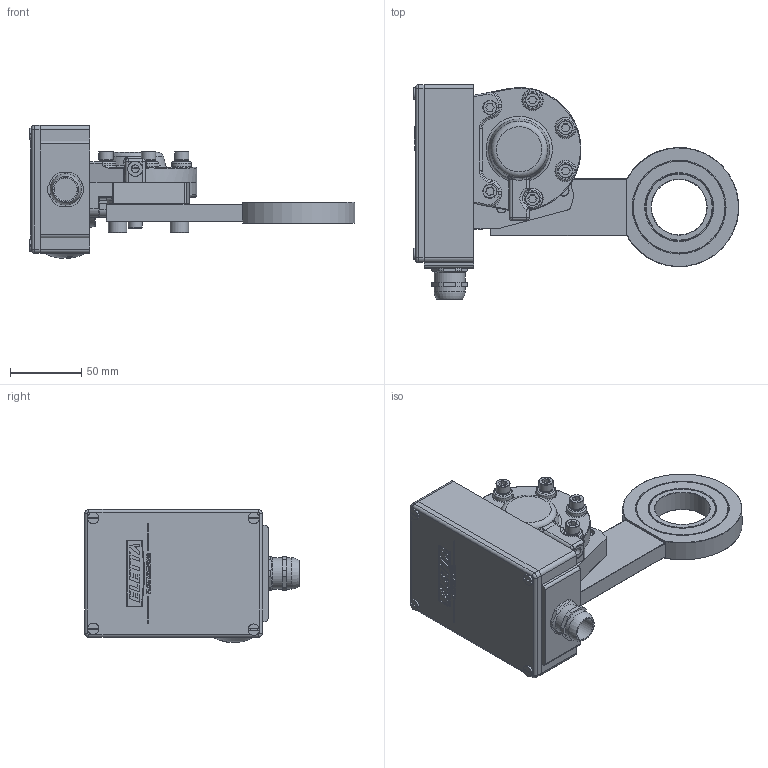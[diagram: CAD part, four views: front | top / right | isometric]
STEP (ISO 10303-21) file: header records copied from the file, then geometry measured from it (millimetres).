
FILE_DESCRIPTION(/* description */ ('Alibre Inc.'),/* implementation_level */ '2;1');
FILE_NAME(/* name */ 'export0',/* time_stamp */ '2012-10-19T13:16:03+02:00',/* author */ (''),/* organization */ (''),/* preprocessor_version */ 'ST-DEVELOPER v14',/* originating_system */ 'Alibre',/* authorisation */ '');
FILE_SCHEMA (('CONFIG_CONTROL_DESIGN'));
Length unit declared in the file: centimetre
Products named in the file (12): ID_1; ID_2; ID_3; ID_4; ID_5; ID_6; ID_7; ID_8; ID_9
Bounding box: 228.86 x 151 x 93.66 mm (x, y, z)
Volume: 375392.6 mm3; surface area: 166464.9 mm2
Topology: 21 solids, 21 shells, 1085 faces, 2568 edges, 1593 vertices
Faces by surface type: plane 538, cylinder 231, bspline 162, cone 76, torus 70, sphere 8
Full cylindrical faces by diameter (mm): 3.9 x2, 5 x22, 5.5 x1, 5.541 x2, 6 x14, 6.038 x2, 6.5 x6, 8 x9, 8.5 x2, 9.6 x6, 10 x11, 10.5 x1, 12 x3, 13 x2, 14 x3, 16 x1, 17.966 x1, 19.5 x1, 22 x2, 22.5 x4, 29 x1, 31 x1, 39 x1, 47 x2, 48 x2, 65 x2, 66 x2
Entity records: 34338 total; most frequent: CARTESIAN_POINT 14030, ORIENTED_EDGE 3988, DIRECTION 3168, EDGE_CURVE 1994, VERTEX_POINT 1333, AXIS2_PLACEMENT_3D 1279, EDGE_LOOP 1159, FACE_BOUND 1159
